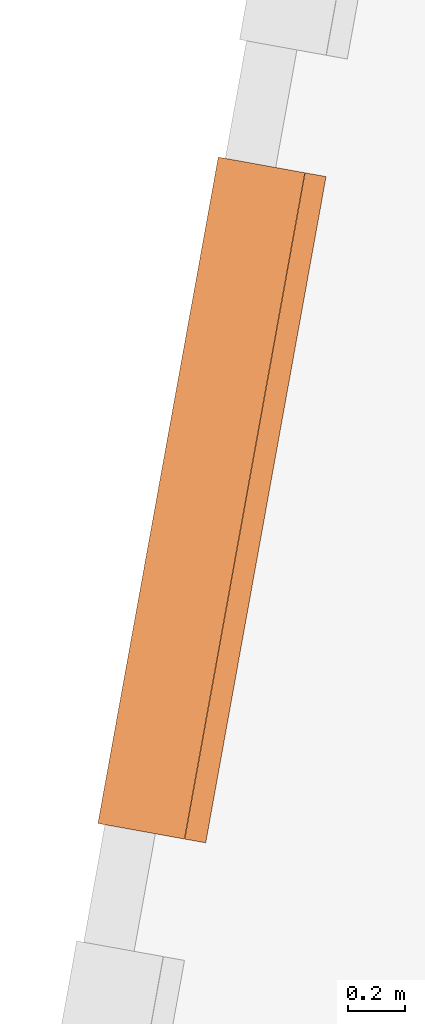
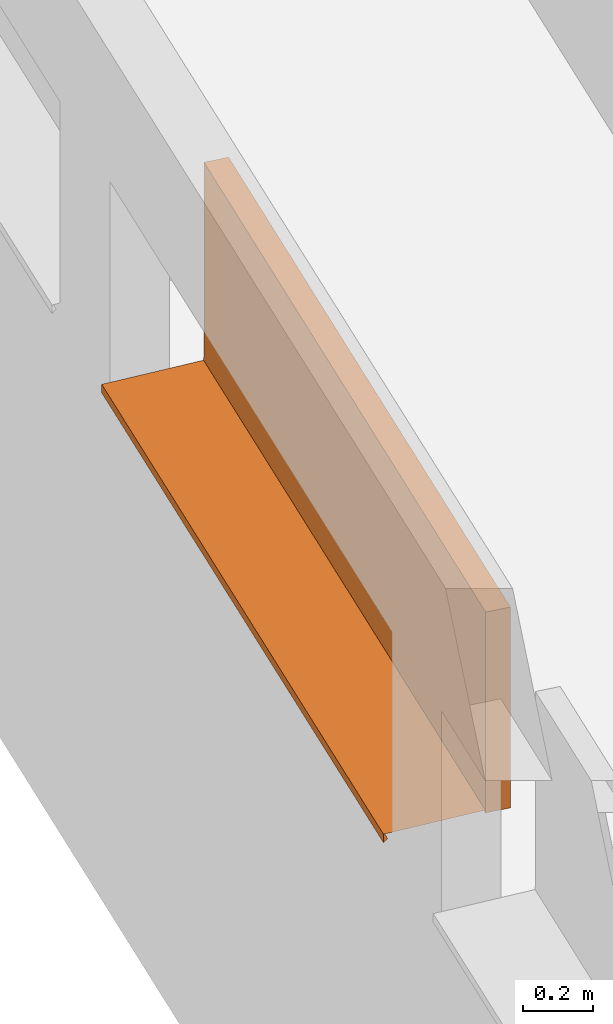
# One storey, part 23 of 79: 1 proxy.
"""IFC2X3 building model written with IfcOpenShell, lengths in metres."""

from ifc_helpers import new_model, entity, si_unit, converted_unit, derived_unit, money_unit, direction, frame, origin_with_axes, place, context, subcontext, project, spatial, open_shell, faceted_brep, surface_model, source, transform, mapped, material, type_object, element, save


model = new_model("IFC2X3")

# Units and contexts
model_context = context("Model", 3, precision=1e-05, world=origin_with_axes(), true_north=direction((0.0, 1.0)))
body_context = subcontext(model_context, "Body", "Model", "MODEL_VIEW")
ifc_project = project(units=[si_unit("LENGTHUNIT", "METRE"), si_unit("AREAUNIT", "SQUARE_METRE"), si_unit("VOLUMEUNIT", "CUBIC_METRE"), converted_unit("PLANEANGLEUNIT", "DEGREE", entity("IfcPlaneAngleMeasure", 0.0174532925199), si_unit("PLANEANGLEUNIT", "RADIAN"), dimensions=[0, 0, 0, 0, 0, 0, 0]), money_unit("CHF"), converted_unit("TIMEUNIT", "Year", entity("IfcTimeMeasure", 31556926.0), si_unit("TIMEUNIT", "SECOND"), dimensions=[0, 0, 1, 0, 0, 0, 0]), si_unit("MASSUNIT", "GRAM", prefix="KILO"), si_unit("THERMODYNAMICTEMPERATUREUNIT", "DEGREE_CELSIUS"), si_unit("LUMINOUSINTENSITYUNIT", "LUMEN"), si_unit("ENERGYUNIT", "JOULE", prefix="MEGA"), derived_unit("THERMALCONDUCTANCEUNIT", [(si_unit("POWERUNIT", "WATT"), 1), (si_unit("LENGTHUNIT", "METRE"), -1), (si_unit("THERMODYNAMICTEMPERATUREUNIT", "KELVIN"), -1)]), derived_unit("SPECIFICHEATCAPACITYUNIT", [(si_unit("ENERGYUNIT", "JOULE"), 1), (si_unit("MASSUNIT", "GRAM", prefix="KILO"), -1), (si_unit("THERMODYNAMICTEMPERATUREUNIT", "KELVIN"), -1)]), derived_unit("MASSDENSITYUNIT", [(si_unit("MASSUNIT", "GRAM", prefix="KILO"), 1), (si_unit("VOLUMEUNIT", "CUBIC_METRE"), -1)])], contexts=[model_context])

# Site, building, storey
site_placement = place(None, frame((0.0, 0.0, 0.0), z_axis=(0.0, 0.0, 1.0), x_axis=(-0.177771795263, -0.984071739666, 0.0)))
site = spatial("IfcSite", under=ifc_project, at=site_placement, Name="Site", CompositionType="ELEMENT")
building_placement = place(site_placement, origin_with_axes())
building = spatial("IfcBuilding", under=site, at=building_placement, Name="Bâtiment", CompositionType="ELEMENT")
storey_placement = place(building_placement, origin_with_axes())
storey = spatial("IfcBuildingStorey", under=building, at=storey_placement, Name="RDC", CompositionType="ELEMENT", Elevation=0.0)

# Proxy
ifc_material = material(Name="Matériau de construction IFC")
building_element_proxy_type = type_object("IfcBuildingElementProxyType", Name="Fenêtre variable 21", PredefinedType="NOTDEFINED")
shared_shape = source(origin_with_axes(), body_context, "Body", "SurfaceModel", [
    surface_model("IfcShellBasedSurfaceModel", [(0.0, 0.284, 0.02), (0.0, 0.284, 0.01), (2.38, 0.284, 0.01), (2.38, 0.284, 0.02), (0.0, -0.025, -0.00087719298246), (2.38, -0.025, -0.00087719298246), (0.0, -0.025, -0.0308771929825), (2.38, -0.025, -0.0308771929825), (0.0, -0.0125, -0.0183771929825), (2.38, -0.0125, -0.0183771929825)], [open_shell([[[0, 1, 2, 3]], [[1, 4, 5, 2]], [[4, 6, 7, 5]], [[6, 8, 9, 7]]])]),
    faceted_brep([(0.075, 0.285, 0.625), (0.075, 0.36, 0.625), (0.0, 0.36, 0.625), (0.0, 0.285, 0.625), (0.075, 0.285, 0.075), (0.075, 0.36, 0.075), (0.0, 0.36, 0.075), (0.0, 0.285, 0.075)], [[[0, 1, 2, 3]], [[4, 5, 1, 0]], [[1, 5, 6, 2]], [[3, 2, 6, 7]], [[0, 3, 7, 4]], [[7, 6, 5, 4]]]),
    faceted_brep([(2.305, 0.285, 0.075), (2.305, 0.36, 0.075), (2.38, 0.36, 0.075), (2.38, 0.285, 0.075), (2.305, 0.285, 0.625), (2.305, 0.36, 0.625), (2.38, 0.36, 0.625), (2.38, 0.285, 0.625)], [[[0, 1, 2, 3]], [[4, 5, 1, 0]], [[1, 5, 6, 2]], [[3, 2, 6, 7]], [[0, 3, 7, 4]], [[7, 6, 5, 4]]]),
    faceted_brep([(0.075, 0.285, 0.075), (0.075, 0.36, 0.075), (0.0, 0.36, 0.075), (0.0, 0.285, 0.075), (2.305, 0.285, 0.075), (2.305, 0.36, 0.075), (2.38, 0.36, 0.075), (2.38, 0.36, 0.0), (0.0, 0.36, 0.0), (0.0, 0.285, 0.0), (2.38, 0.285, 0.0), (2.38, 0.285, 0.075)], [[[0, 1, 2, 3]], [[4, 5, 1, 0]], [[1, 5, 6, 7, 8, 2]], [[3, 2, 8, 9]], [[0, 3, 9, 10, 11, 4]], [[11, 6, 5, 4]], [[10, 7, 6, 11]], [[9, 8, 7, 10]]]),
    faceted_brep([(2.305, 0.285, 0.625), (2.305, 0.36, 0.625), (2.38, 0.36, 0.625), (2.38, 0.285, 0.625), (0.075, 0.285, 0.625), (0.075, 0.36, 0.625), (0.0, 0.36, 0.625), (0.0, 0.36, 0.7), (2.38, 0.36, 0.7), (2.38, 0.285, 0.7), (0.0, 0.285, 0.7), (0.0, 0.285, 0.625)], [[[0, 1, 2, 3]], [[4, 5, 1, 0]], [[1, 5, 6, 7, 8, 2]], [[3, 2, 8, 9]], [[0, 3, 9, 10, 11, 4]], [[11, 6, 5, 4]], [[10, 7, 6, 11]], [[9, 8, 7, 10]]]),
    surface_model("IfcShellBasedSurfaceModel", [(0.075, 0.285, 0.075), (2.305, 0.285, 0.075), (2.305, 0.285, 0.625), (0.075, 0.285, 0.625)], [open_shell([[[0, 1, 2, 3]]])]),
    surface_model("IfcShellBasedSurfaceModel", [(0.075, 0.305, 0.075), (0.075, 0.305, 0.625), (2.305, 0.305, 0.625), (2.305, 0.305, 0.075)], [open_shell([[[0, 1, 2, 3]]])]),
])
proxy_placement = place(storey_placement, frame((158.619841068, -159.217107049, 1.7), z_axis=(0.0, 0.0, 1.0), x_axis=(1.0, 0.0, 0.0)))
element("IfcBuildingElementProxy", 1, at=proxy_placement, inside=storey, type_object=building_element_proxy_type, material=ifc_material, Name="Fen couloir", context=body_context, shape_type="MappedRepresentation", body=[
    mapped(shared_shape, transform((0.0, 0.0, 0.0))),
])

save(model, "model.ifc")
